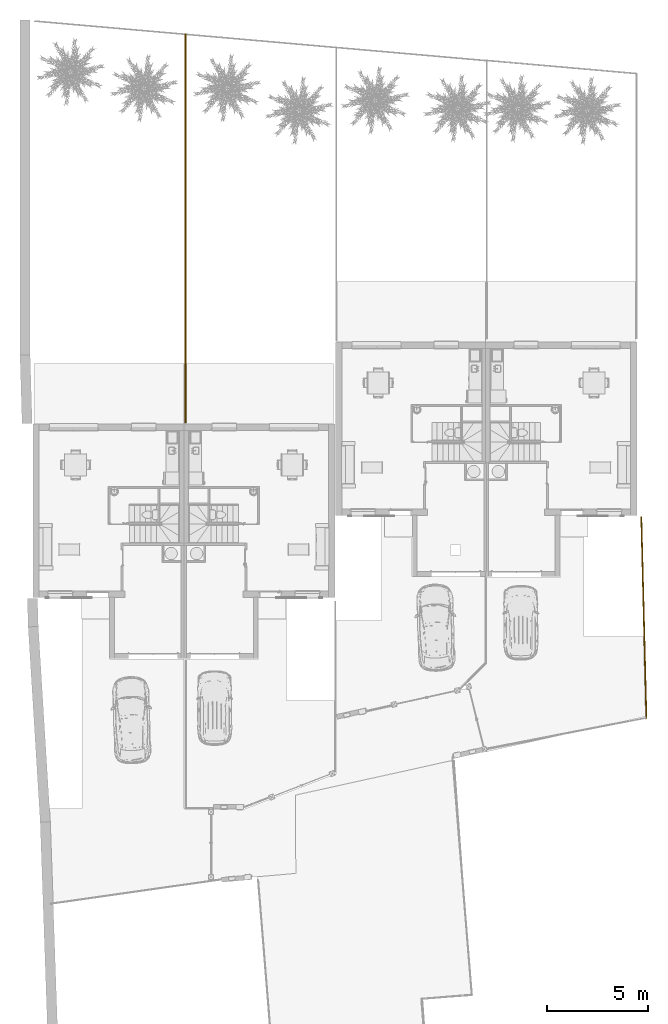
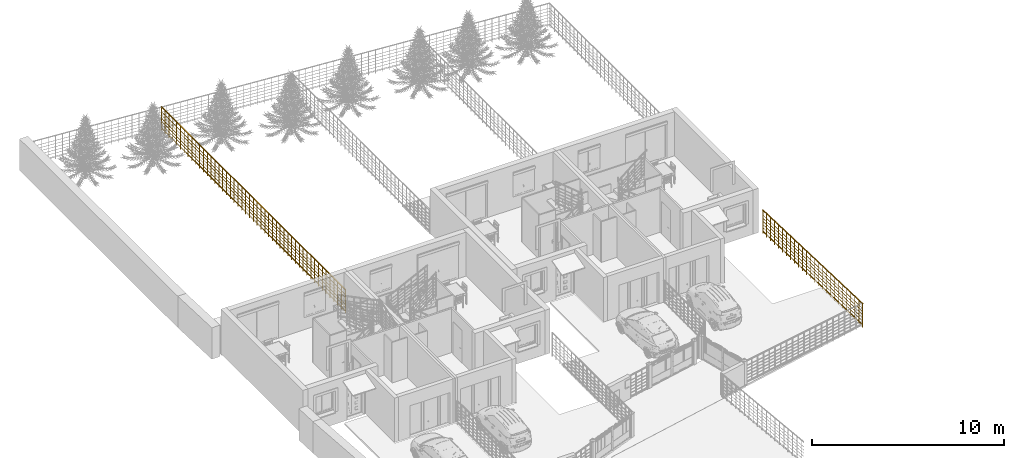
# One storey, part 27 of 33: 2 railings.
"""IFC2X3 building model written with IfcOpenShell, lengths in metres."""

from ifc_helpers import new_model, entity, si_unit, converted_unit, derived_unit, direction, frame, frame_2d, origin, origin_2d_with_axis, place, context, subcontext, project, spatial, polyline, rectangle, circle, outline, extrude, material, material_list, element, save


model = new_model("IFC2X3")

# Units and contexts
model_context = context("Model", 3, precision=1e-05, world=origin(), true_north=direction((6.12303176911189e-17, 1.0)))
context_of_model = context(None, 3, precision=1e-05, world=origin(), true_north=direction((6.12303176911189e-17, 1.0)))
body_context = subcontext(model_context, "Body", "Model", "MODEL_VIEW")
ifc_project = project(units=[si_unit("LENGTHUNIT", "METRE"), si_unit("AREAUNIT", "SQUARE_METRE"), si_unit("VOLUMEUNIT", "CUBIC_METRE"), converted_unit("PLANEANGLEUNIT", "DEGREE", entity("IfcRatioMeasure", 0.0174532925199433), si_unit("PLANEANGLEUNIT", "RADIAN"), dimensions=[0, 0, 0, 0, 0, 0, 0]), si_unit("MASSUNIT", "GRAM", prefix="KILO"), si_unit("TIMEUNIT", "SECOND"), si_unit("FREQUENCYUNIT", "HERTZ"), si_unit("THERMODYNAMICTEMPERATUREUNIT", "DEGREE_CELSIUS"), derived_unit("THERMALTRANSMITTANCEUNIT", [(si_unit("MASSUNIT", "GRAM", prefix="KILO"), 1), (si_unit("THERMODYNAMICTEMPERATUREUNIT", "KELVIN"), -1), (si_unit("TIMEUNIT", "SECOND"), -3)]), derived_unit("VOLUMETRICFLOWRATEUNIT", [(si_unit("LENGTHUNIT", "METRE"), 3), (si_unit("TIMEUNIT", "SECOND"), -1)]), si_unit("ELECTRICCURRENTUNIT", "AMPERE"), si_unit("ELECTRICVOLTAGEUNIT", "VOLT"), si_unit("POWERUNIT", "WATT"), si_unit("FORCEUNIT", "NEWTON", prefix="KILO"), si_unit("ILLUMINANCEUNIT", "LUX"), si_unit("LUMINOUSFLUXUNIT", "LUMEN"), si_unit("LUMINOUSINTENSITYUNIT", "CANDELA"), si_unit("PRESSUREUNIT", "PASCAL")], contexts=[model_context, context_of_model])

# Site, building, storey
site_placement = place(None, origin())
site = spatial("IfcSite", under=ifc_project, at=site_placement, Name="Surface", CompositionType="ELEMENT")
building_placement = place(site_placement, origin())
building = spatial("IfcBuilding", under=site, at=building_placement, CompositionType="ELEMENT")
storey_placement = place(building_placement, origin())
storey = spatial("IfcBuildingStorey", under=building, at=storey_placement, Name="Plan des fondations  Maisons 1 et 2", CompositionType="ELEMENT", Elevation=0.0)

# Railings
ifc_material_1 = material(Name="Bois")
ifc_material_2 = material(Name="Finition Peinture Grise")
ifc_material_list_1 = material_list([ifc_material_1, ifc_material_2])
railing_1_placement = place(building_placement, origin())
element("IfcRailing", 1, at=railing_1_placement, inside=storey, material=ifc_material_list_1, Name="Garde-corps:Type Bateau 1,50 m", ObjectType="Garde-corps:Type Bateau 1,50 m", PredefinedType="NOTDEFINED", context=body_context, shape_type="SweptSolid", body=[
    extrude(rectangle(XDim=0.0499999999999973, YDim=0.0139999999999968, at=frame_2d((4.32986979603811e-15, -1.73259843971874e-14), x_axis=(1.0, 0.0))), frame((68.9122847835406, 107.277798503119, -0.1), z_axis=(0.0, 0.0, 1.0), x_axis=(-1.0, 0.0, 0.0)), (0.0, 0.0, 1.0), 1.46984653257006),
    extrude(rectangle(XDim=0.0499999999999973, YDim=0.0139999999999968, at=frame_2d((4.32986979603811e-15, 0.0), x_axis=(1.0, 0.0))), frame((68.9122847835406, 106.877798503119, -0.1), z_axis=(0.0, 0.0, 1.0), x_axis=(-1.0, 0.0, 0.0)), (0.0, 0.0, 1.0), 1.46984653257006),
    extrude(rectangle(XDim=0.0499999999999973, YDim=0.0139999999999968, at=frame_2d((4.32986979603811e-15, 0.0), x_axis=(1.0, 0.0))), frame((68.9122847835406, 106.477798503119, -0.1), z_axis=(0.0, 0.0, 1.0), x_axis=(-1.0, 0.0, 0.0)), (0.0, 0.0, 1.0), 1.46984653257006),
    extrude(rectangle(XDim=0.0499999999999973, YDim=0.0139999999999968, at=frame_2d((4.32986979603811e-15, -1.73259843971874e-14), x_axis=(1.0, 0.0))), frame((68.9122847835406, 106.077798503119, -0.1), z_axis=(0.0, 0.0, 1.0), x_axis=(-1.0, 0.0, 0.0)), (0.0, 0.0, 1.0), 1.46984653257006),
    extrude(rectangle(XDim=0.0499999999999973, YDim=0.0139999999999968, at=frame_2d((4.32986979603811e-15, 0.0), x_axis=(1.0, 0.0))), frame((68.9122847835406, 105.677798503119, -0.1), z_axis=(0.0, 0.0, 1.0), x_axis=(-1.0, 0.0, 0.0)), (0.0, 0.0, 1.0), 1.46984653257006),
    extrude(rectangle(XDim=0.0499999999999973, YDim=0.0139999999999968, at=frame_2d((4.32986979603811e-15, 0.0), x_axis=(1.0, 0.0))), frame((68.9122847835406, 105.277798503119, -0.1), z_axis=(0.0, 0.0, 1.0), x_axis=(-1.0, 0.0, 0.0)), (0.0, 0.0, 1.0), 1.46984653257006),
    extrude(rectangle(XDim=0.0499999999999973, YDim=0.0139999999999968, at=frame_2d((-4.32986979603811e-15, -1.73259843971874e-14), x_axis=(1.0, 0.0))), frame((68.9122847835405, 104.877798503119, -0.1), z_axis=(0.0, 0.0, 1.0), x_axis=(-1.0, 0.0, 0.0)), (0.0, 0.0, 1.0), 1.46984653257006),
    extrude(rectangle(XDim=0.0499999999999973, YDim=0.0139999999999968, at=frame_2d((-4.32986979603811e-15, 0.0), x_axis=(1.0, 0.0))), frame((68.9122847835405, 104.477798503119, -0.1), z_axis=(0.0, 0.0, 1.0), x_axis=(-1.0, 0.0, 0.0)), (0.0, 0.0, 1.0), 1.46984653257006),
    extrude(rectangle(XDim=0.0499999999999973, YDim=0.0139999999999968, at=frame_2d((-4.32986979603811e-15, 0.0), x_axis=(1.0, 0.0))), frame((68.9122847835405, 104.077798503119, -0.1), z_axis=(0.0, 0.0, 1.0), x_axis=(-1.0, 0.0, 0.0)), (0.0, 0.0, 1.0), 1.46984653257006),
    extrude(rectangle(XDim=0.0499999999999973, YDim=0.0139999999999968, at=frame_2d((-4.32986979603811e-15, 0.0), x_axis=(1.0, 0.0))), frame((68.9122847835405, 103.677798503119, -0.1), z_axis=(0.0, 0.0, 1.0), x_axis=(-1.0, 0.0, 0.0)), (0.0, 0.0, 1.0), 1.46984653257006),
    extrude(rectangle(XDim=0.0499999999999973, YDim=0.0139999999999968, at=frame_2d((-4.32986979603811e-15, 0.0), x_axis=(1.0, 0.0))), frame((68.9122847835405, 103.277798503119, -0.1), z_axis=(0.0, 0.0, 1.0), x_axis=(-1.0, 0.0, 0.0)), (0.0, 0.0, 1.0), 1.46984653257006),
    extrude(rectangle(XDim=0.0499999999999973, YDim=0.0139999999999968, at=frame_2d((-4.32986979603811e-15, 0.0), x_axis=(1.0, 0.0))), frame((68.9122847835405, 102.877798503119, -0.1), z_axis=(0.0, 0.0, 1.0), x_axis=(-1.0, 0.0, 0.0)), (0.0, 0.0, 1.0), 1.46984653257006),
    extrude(rectangle(XDim=0.0499999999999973, YDim=0.0139999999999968, at=frame_2d((-4.32986979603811e-15, 0.0), x_axis=(1.0, 0.0))), frame((68.9122847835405, 102.477798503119, -0.1), z_axis=(0.0, 0.0, 1.0), x_axis=(-1.0, 0.0, 0.0)), (0.0, 0.0, 1.0), 1.46984653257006),
    extrude(rectangle(XDim=0.0499999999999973, YDim=0.0139999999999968, at=frame_2d((-4.32986979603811e-15, 0.0), x_axis=(1.0, 0.0))), frame((68.9122847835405, 102.077798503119, -0.1), z_axis=(0.0, 0.0, 1.0), x_axis=(-1.0, 0.0, 0.0)), (0.0, 0.0, 1.0), 1.46984653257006),
    extrude(rectangle(XDim=0.0499999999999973, YDim=0.0139999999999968, at=frame_2d((-4.32986979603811e-15, 0.0), x_axis=(1.0, 0.0))), frame((68.9122847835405, 101.677798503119, -0.1), z_axis=(0.0, 0.0, 1.0), x_axis=(-1.0, 0.0, 0.0)), (0.0, 0.0, 1.0), 1.46984653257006),
    extrude(rectangle(XDim=0.0499999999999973, YDim=0.0139999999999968, at=frame_2d((-4.32986979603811e-15, 0.0), x_axis=(1.0, 0.0))), frame((68.9122847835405, 101.277798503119, -0.1), z_axis=(0.0, 0.0, 1.0), x_axis=(-1.0, 0.0, 0.0)), (0.0, 0.0, 1.0), 1.46984653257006),
    extrude(rectangle(XDim=0.0499999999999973, YDim=0.0139999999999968, at=frame_2d((-4.32986979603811e-15, 0.0), x_axis=(1.0, 0.0))), frame((68.9122847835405, 100.877798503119, -0.1), z_axis=(0.0, 0.0, 1.0), x_axis=(-1.0, 0.0, 0.0)), (0.0, 0.0, 1.0), 1.46984653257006),
    extrude(rectangle(XDim=0.0499999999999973, YDim=0.0139999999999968, at=frame_2d((-4.32986979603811e-15, 0.0), x_axis=(1.0, 0.0))), frame((68.9122847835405, 100.477798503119, -0.1), z_axis=(0.0, 0.0, 1.0), x_axis=(-1.0, 0.0, 0.0)), (0.0, 0.0, 1.0), 1.46984653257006),
    extrude(rectangle(XDim=0.0499999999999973, YDim=0.0139999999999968, at=frame_2d((-4.32986979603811e-15, 0.0), x_axis=(1.0, 0.0))), frame((68.9122847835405, 100.077798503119, -0.1), z_axis=(0.0, 0.0, 1.0), x_axis=(-1.0, 0.0, 0.0)), (0.0, 0.0, 1.0), 1.46984653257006),
    extrude(rectangle(XDim=0.0499999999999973, YDim=0.0139999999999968, at=frame_2d((4.32986979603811e-15, 0.0), x_axis=(1.0, 0.0))), frame((68.9122847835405, 99.6777985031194, -0.1), z_axis=(0.0, 0.0, 1.0), x_axis=(-1.0, 0.0, 0.0)), (0.0, 0.0, 1.0), 1.46984653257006),
    extrude(rectangle(XDim=0.0499999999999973, YDim=0.0139999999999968, at=frame_2d((4.32986979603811e-15, 0.0), x_axis=(1.0, 0.0))), frame((68.9122847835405, 99.2777985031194, -0.1), z_axis=(0.0, 0.0, 1.0), x_axis=(-1.0, 0.0, 0.0)), (0.0, 0.0, 1.0), 1.46984653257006),
    extrude(rectangle(XDim=0.0499999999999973, YDim=0.0139999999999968, at=frame_2d((4.32986979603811e-15, 0.0), x_axis=(1.0, 0.0))), frame((68.9122847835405, 98.8777985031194, -0.1), z_axis=(0.0, 0.0, 1.0), x_axis=(-1.0, 0.0, 0.0)), (0.0, 0.0, 1.0), 1.46984653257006),
    extrude(rectangle(XDim=0.0499999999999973, YDim=0.0139999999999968, at=frame_2d((4.32986979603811e-15, 0.0), x_axis=(1.0, 0.0))), frame((68.9122847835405, 98.4777985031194, -0.1), z_axis=(0.0, 0.0, 1.0), x_axis=(-1.0, 0.0, 0.0)), (0.0, 0.0, 1.0), 1.46984653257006),
    extrude(rectangle(XDim=0.0499999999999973, YDim=0.0139999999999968, at=frame_2d((4.32986979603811e-15, 0.0), x_axis=(1.0, 0.0))), frame((68.9122847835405, 98.0777985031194, -0.1), z_axis=(0.0, 0.0, 1.0), x_axis=(-1.0, 0.0, 0.0)), (0.0, 0.0, 1.0), 1.46984653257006),
    extrude(rectangle(XDim=0.0499999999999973, YDim=0.0139999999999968, at=frame_2d((4.32986979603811e-15, 0.0), x_axis=(1.0, 0.0))), frame((68.9122847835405, 97.6777985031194, -0.1), z_axis=(0.0, 0.0, 1.0), x_axis=(-1.0, 0.0, 0.0)), (0.0, 0.0, 1.0), 1.46984653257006),
    extrude(rectangle(XDim=0.0499999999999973, YDim=0.0139999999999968, at=frame_2d((4.32986979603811e-15, 0.0), x_axis=(1.0, 0.0))), frame((68.9122847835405, 97.2777985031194, -0.1), z_axis=(0.0, 0.0, 1.0), x_axis=(-1.0, 0.0, 0.0)), (0.0, 0.0, 1.0), 1.46984653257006),
    extrude(rectangle(XDim=0.0499999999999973, YDim=0.0139999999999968, at=frame_2d((4.32986979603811e-15, 0.0), x_axis=(1.0, 0.0))), frame((68.9122847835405, 96.8777985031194, -0.1), z_axis=(0.0, 0.0, 1.0), x_axis=(-1.0, 0.0, 0.0)), (0.0, 0.0, 1.0), 1.46984653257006),
    extrude(rectangle(XDim=0.0499999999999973, YDim=0.0139999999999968, at=frame_2d((4.32986979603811e-15, 0.0), x_axis=(1.0, 0.0))), frame((68.9122847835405, 96.4777985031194, -0.1), z_axis=(0.0, 0.0, 1.0), x_axis=(-1.0, 0.0, 0.0)), (0.0, 0.0, 1.0), 1.46984653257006),
    extrude(rectangle(XDim=0.0499999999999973, YDim=0.0139999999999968, at=frame_2d((4.32986979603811e-15, 0.0), x_axis=(1.0, 0.0))), frame((68.9122847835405, 96.0777985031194, -0.1), z_axis=(0.0, 0.0, 1.0), x_axis=(-1.0, 0.0, 0.0)), (0.0, 0.0, 1.0), 1.46984653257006),
    extrude(rectangle(XDim=0.0499999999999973, YDim=0.0139999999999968, at=frame_2d((4.32986979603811e-15, 0.0), x_axis=(1.0, 0.0))), frame((68.9122847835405, 95.6777985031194, -0.1), z_axis=(0.0, 0.0, 1.0), x_axis=(-1.0, 0.0, 0.0)), (0.0, 0.0, 1.0), 1.46984653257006),
    extrude(rectangle(XDim=0.0499999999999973, YDim=0.0139999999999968, at=frame_2d((4.32986979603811e-15, 0.0), x_axis=(1.0, 0.0))), frame((68.9122847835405, 95.2777985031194, -0.1), z_axis=(0.0, 0.0, 1.0), x_axis=(-1.0, 0.0, 0.0)), (0.0, 0.0, 1.0), 1.46984653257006),
    extrude(rectangle(XDim=0.0499999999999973, YDim=0.0139999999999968, at=frame_2d((4.32986979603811e-15, 0.0), x_axis=(1.0, 0.0))), frame((68.9122847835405, 94.8777985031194, -0.1), z_axis=(0.0, 0.0, 1.0), x_axis=(-1.0, 0.0, 0.0)), (0.0, 0.0, 1.0), 1.46984653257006),
    extrude(rectangle(XDim=0.0499999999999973, YDim=0.0139999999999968, at=frame_2d((4.32986979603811e-15, 0.0), x_axis=(1.0, 0.0))), frame((68.9122847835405, 94.4777985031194, -0.1), z_axis=(0.0, 0.0, 1.0), x_axis=(-1.0, 0.0, 0.0)), (0.0, 0.0, 1.0), 1.46984653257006),
    extrude(rectangle(XDim=0.0499999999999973, YDim=0.0139999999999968, at=frame_2d((4.32986979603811e-15, 0.0), x_axis=(1.0, 0.0))), frame((68.9122847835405, 94.0777985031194, -0.1), z_axis=(0.0, 0.0, 1.0), x_axis=(-1.0, 0.0, 0.0)), (0.0, 0.0, 1.0), 1.46984653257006),
    extrude(rectangle(XDim=0.0499999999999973, YDim=0.0139999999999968, at=frame_2d((4.32986979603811e-15, 0.0), x_axis=(1.0, 0.0))), frame((68.9122847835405, 93.6777985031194, -0.1), z_axis=(0.0, 0.0, 1.0), x_axis=(-1.0, 0.0, 0.0)), (0.0, 0.0, 1.0), 1.46984653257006),
    extrude(rectangle(XDim=0.0499999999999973, YDim=0.0139999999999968, at=frame_2d((4.32986979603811e-15, 0.0), x_axis=(1.0, 0.0))), frame((68.9122847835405, 93.2777985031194, -0.1), z_axis=(0.0, 0.0, 1.0), x_axis=(-1.0, 0.0, 0.0)), (0.0, 0.0, 1.0), 1.46984653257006),
    extrude(rectangle(XDim=0.0499999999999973, YDim=0.0139999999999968, at=frame_2d((4.32986979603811e-15, 0.0), x_axis=(1.0, 0.0))), frame((68.9122847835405, 92.8777985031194, -0.1), z_axis=(0.0, 0.0, 1.0), x_axis=(-1.0, 0.0, 0.0)), (0.0, 0.0, 1.0), 1.46984653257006),
    extrude(rectangle(XDim=0.0499999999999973, YDim=0.0139999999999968, at=frame_2d((4.32986979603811e-15, 0.0), x_axis=(1.0, 0.0))), frame((68.9122847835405, 92.4777985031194, -0.1), z_axis=(0.0, 0.0, 1.0), x_axis=(-1.0, 0.0, 0.0)), (0.0, 0.0, 1.0), 1.46984653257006),
    extrude(rectangle(XDim=0.0499999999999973, YDim=0.0139999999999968, at=frame_2d((4.32986979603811e-15, 0.0), x_axis=(1.0, 0.0))), frame((68.9122847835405, 92.0777985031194, -0.1), z_axis=(0.0, 0.0, 1.0), x_axis=(-1.0, 0.0, 0.0)), (0.0, 0.0, 1.0), 1.46984653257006),
    extrude(rectangle(XDim=0.0499999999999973, YDim=0.0139999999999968, at=frame_2d((4.32986979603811e-15, 0.0), x_axis=(1.0, 0.0))), frame((68.9122847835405, 91.6777985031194, -0.1), z_axis=(0.0, 0.0, 1.0), x_axis=(-1.0, 0.0, 0.0)), (0.0, 0.0, 1.0), 1.46984653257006),
    extrude(rectangle(XDim=0.0499999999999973, YDim=0.0139999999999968, at=frame_2d((4.32986979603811e-15, 0.0), x_axis=(1.0, 0.0))), frame((68.9122847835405, 91.2777985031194, -0.1), z_axis=(0.0, 0.0, 1.0), x_axis=(-1.0, 0.0, 0.0)), (0.0, 0.0, 1.0), 1.46984653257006),
    extrude(rectangle(XDim=0.0499999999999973, YDim=0.0139999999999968, at=frame_2d((4.32986979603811e-15, 0.0), x_axis=(1.0, 0.0))), frame((68.9122847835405, 90.8777985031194, -0.1), z_axis=(0.0, 0.0, 1.0), x_axis=(-1.0, 0.0, 0.0)), (0.0, 0.0, 1.0), 1.46984653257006),
    extrude(rectangle(XDim=0.0499999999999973, YDim=0.0139999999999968, at=frame_2d((4.32986979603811e-15, 0.0), x_axis=(1.0, 0.0))), frame((68.9122847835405, 90.4777985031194, -0.1), z_axis=(0.0, 0.0, 1.0), x_axis=(-1.0, 0.0, 0.0)), (0.0, 0.0, 1.0), 1.46984653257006),
    extrude(rectangle(XDim=0.0499999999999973, YDim=0.0139999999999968, at=frame_2d((4.32986979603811e-15, 0.0), x_axis=(1.0, 0.0))), frame((68.9122847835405, 90.0777985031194, -0.1), z_axis=(0.0, 0.0, 1.0), x_axis=(-1.0, 0.0, 0.0)), (0.0, 0.0, 1.0), 1.46984653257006),
    extrude(rectangle(XDim=0.0499999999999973, YDim=0.0139999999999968, at=frame_2d((4.32986979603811e-15, 0.0), x_axis=(1.0, 0.0))), frame((68.9122847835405, 89.6777985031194, -0.1), z_axis=(0.0, 0.0, 1.0), x_axis=(-1.0, 0.0, 0.0)), (0.0, 0.0, 1.0), 1.46984653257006),
    extrude(rectangle(XDim=0.0499999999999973, YDim=0.0139999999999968, at=frame_2d((4.32986979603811e-15, 0.0), x_axis=(1.0, 0.0))), frame((68.9122847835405, 89.2777985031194, -0.1), z_axis=(0.0, 0.0, 1.0), x_axis=(-1.0, 0.0, 0.0)), (0.0, 0.0, 1.0), 1.46984653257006),
    extrude(rectangle(XDim=0.0499999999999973, YDim=0.0139999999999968, at=frame_2d((4.32986979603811e-15, 0.0), x_axis=(1.0, 0.0))), frame((68.9122847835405, 88.8777985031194, -0.1), z_axis=(0.0, 0.0, 1.0), x_axis=(-1.0, 0.0, 0.0)), (0.0, 0.0, 1.0), 1.46984653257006),
    extrude(rectangle(XDim=0.0499999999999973, YDim=0.0139999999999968, at=frame_2d((4.32986979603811e-15, 0.0), x_axis=(1.0, 0.0))), frame((68.9122847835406, 107.667798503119, -0.1), z_axis=(0.0, 0.0, 1.0), x_axis=(-1.0, 0.0, 0.0)), (0.0, 0.0, 1.0), 1.46984653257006),
    extrude(rectangle(XDim=0.0499999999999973, YDim=0.0139999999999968, at=frame_2d((4.32986979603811e-15, 0.0), x_axis=(1.0, 0.0))), frame((68.9122847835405, 88.4877985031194, -0.1), z_axis=(0.0, 0.0, 1.0), x_axis=(-1.0, 0.0, 0.0)), (0.0, 0.0, 1.0), 1.46984653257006),
    extrude(outline(polyline([(-0.0109067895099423, -0.0384843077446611), (0.00177588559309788, -0.0384843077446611), (0.0141514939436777, -0.0318300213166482), (0.0240801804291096, -0.0196720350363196), (0.029845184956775, -0.00411257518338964), (0.0304496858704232, 0.01215798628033), (0.0257891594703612, 0.0263263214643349), (0.016669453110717, 0.0359425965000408), (0.010906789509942, 0.0384843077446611), (-0.0017758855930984, 0.0384843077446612), (-0.0141514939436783, 0.0318300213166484), (-0.0240801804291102, 0.0196720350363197), (-0.0298451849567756, 0.00411257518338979), (-0.0304496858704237, -0.0121579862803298), (-0.0257891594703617, -0.0263263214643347), (-0.0166694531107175, -0.0359425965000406), (-0.0109067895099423, -0.0384843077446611)])), frame((68.9117857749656, 88.4766194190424, 1.4), z_axis=(0.0, 1.0, 0.0), x_axis=(0.27266973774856, 0.0, 0.962107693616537)), (0.0, 0.0, 1.0), 19.2),
    extrude(circle(Radius=0.015, at=origin_2d_with_axis()), frame((68.9117857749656, 88.4766194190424, 0.025), z_axis=(0.0, 1.0, 0.0), x_axis=(1.0, 0.0, 0.0)), (0.0, 0.0, 1.0), 19.2),
    extrude(circle(Radius=0.015, at=origin_2d_with_axis()), frame((68.9117857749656, 88.4766194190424, 1.085), z_axis=(0.0, 1.0, 0.0), x_axis=(1.0, 0.0, 0.0)), (0.0, 0.0, 1.0), 19.2),
    extrude(circle(Radius=0.015, at=origin_2d_with_axis()), frame((68.9117857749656, 88.4766194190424, 0.885), z_axis=(0.0, 1.0, 0.0), x_axis=(1.0, 0.0, 0.0)), (0.0, 0.0, 1.0), 19.2),
    extrude(circle(Radius=0.015, at=origin_2d_with_axis()), frame((68.9117857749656, 88.4766194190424, 0.685), z_axis=(0.0, 1.0, 0.0), x_axis=(1.0, 0.0, 0.0)), (0.0, 0.0, 1.0), 19.2),
    extrude(circle(Radius=0.015, at=origin_2d_with_axis()), frame((68.9117857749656, 88.4766194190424, 0.485), z_axis=(0.0, 1.0, 0.0), x_axis=(1.0, 0.0, 0.0)), (0.0, 0.0, 1.0), 19.2),
    extrude(circle(Radius=0.015, at=origin_2d_with_axis()), frame((68.9117857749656, 88.4766194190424, 0.285), z_axis=(0.0, 1.0, 0.0), x_axis=(1.0, 0.0, 0.0)), (0.0, 0.0, 1.0), 19.2),
    extrude(circle(Radius=0.015, at=origin_2d_with_axis()), frame((68.9117857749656, 88.4766194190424, 0.085), z_axis=(0.0, 1.0, 0.0), x_axis=(1.0, 0.0, 0.0)), (0.0, 0.0, 1.0), 19.2),
])
ifc_material_list_2 = material_list([ifc_material_1, ifc_material_2])
railing_2_placement = place(building_placement, origin())
element("IfcRailing", 2, at=railing_2_placement, inside=storey, material=ifc_material_list_2, Name="Garde-corps:Type Bateau 1,50 m", ObjectType="Garde-corps:Type Bateau 1,50 m", PredefinedType="NOTDEFINED", context=body_context, shape_type="SweptSolid", body=[
    extrude(rectangle(XDim=0.0500000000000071, YDim=0.0139999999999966, at=origin_2d_with_axis()), frame((91.6194130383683, 74.2817731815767, -0.1), z_axis=(0.0, 0.0, 1.0), x_axis=(0.99967963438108, 0.0253106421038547, 0.0)), (0.0, 0.0, 1.0), 1.46984653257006),
    extrude(rectangle(XDim=0.0500000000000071, YDim=0.0139999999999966, at=origin_2d_with_axis()), frame((91.6092887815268, 74.6816450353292, -0.1), z_axis=(0.0, 0.0, 1.0), x_axis=(0.99967963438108, 0.0253106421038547, 0.0)), (0.0, 0.0, 1.0), 1.46984653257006),
    extrude(rectangle(XDim=0.0500000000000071, YDim=0.0139999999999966, at=frame_2d((2.18575157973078e-16, 8.66017327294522e-15), x_axis=(1.0, 0.0))), frame((91.5991645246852, 75.0815168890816, -0.1), z_axis=(0.0, 0.0, 1.0), x_axis=(0.99967963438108, 0.0253106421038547, 0.0)), (0.0, 0.0, 1.0), 1.46984653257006),
    extrude(rectangle(XDim=0.0500000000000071, YDim=0.0139999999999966, at=origin_2d_with_axis()), frame((91.5890402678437, 75.481388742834, -0.1), z_axis=(0.0, 0.0, 1.0), x_axis=(0.99967963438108, 0.0253106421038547, 0.0)), (0.0, 0.0, 1.0), 1.46984653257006),
    extrude(rectangle(XDim=0.0500000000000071, YDim=0.0139999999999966, at=origin_2d_with_axis()), frame((91.5789160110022, 75.8812605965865, -0.1), z_axis=(0.0, 0.0, 1.0), x_axis=(0.99967963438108, 0.0253106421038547, 0.0)), (0.0, 0.0, 1.0), 1.46984653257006),
    extrude(rectangle(XDim=0.0500000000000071, YDim=0.0139999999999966, at=origin_2d_with_axis()), frame((91.5687917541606, 76.2811324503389, -0.1), z_axis=(0.0, 0.0, 1.0), x_axis=(0.99967963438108, 0.0253106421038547, 0.0)), (0.0, 0.0, 1.0), 1.46984653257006),
    extrude(rectangle(XDim=0.0500000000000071, YDim=0.0139999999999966, at=origin_2d_with_axis()), frame((91.5586674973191, 76.6810043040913, -0.1), z_axis=(0.0, 0.0, 1.0), x_axis=(0.99967963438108, 0.0253106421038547, 0.0)), (0.0, 0.0, 1.0), 1.46984653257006),
    extrude(rectangle(XDim=0.0500000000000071, YDim=0.0139999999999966, at=origin_2d_with_axis()), frame((91.5485432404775, 77.0808761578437, -0.1), z_axis=(0.0, 0.0, 1.0), x_axis=(0.99967963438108, 0.0253106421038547, 0.0)), (0.0, 0.0, 1.0), 1.46984653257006),
    extrude(rectangle(XDim=0.0500000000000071, YDim=0.0139999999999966, at=origin_2d_with_axis()), frame((91.538418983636, 77.4807480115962, -0.1), z_axis=(0.0, 0.0, 1.0), x_axis=(0.99967963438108, 0.0253106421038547, 0.0)), (0.0, 0.0, 1.0), 1.46984653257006),
    extrude(rectangle(XDim=0.0500000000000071, YDim=0.0139999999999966, at=origin_2d_with_axis()), frame((91.5282947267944, 77.8806198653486, -0.1), z_axis=(0.0, 0.0, 1.0), x_axis=(0.99967963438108, 0.0253106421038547, 0.0)), (0.0, 0.0, 1.0), 1.46984653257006),
    extrude(rectangle(XDim=0.0500000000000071, YDim=0.0139999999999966, at=frame_2d((-2.18575157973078e-16, -8.66017327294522e-15), x_axis=(1.0, 0.0))), frame((91.5181704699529, 78.2804917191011, -0.1), z_axis=(0.0, 0.0, 1.0), x_axis=(0.99967963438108, 0.0253106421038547, 0.0)), (0.0, 0.0, 1.0), 1.46984653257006),
    extrude(rectangle(XDim=0.0500000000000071, YDim=0.0139999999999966, at=frame_2d((2.18575157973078e-16, 8.66017327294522e-15), x_axis=(1.0, 0.0))), frame((91.5080462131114, 78.6803635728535, -0.1), z_axis=(0.0, 0.0, 1.0), x_axis=(0.99967963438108, 0.0253106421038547, 0.0)), (0.0, 0.0, 1.0), 1.46984653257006),
    extrude(rectangle(XDim=0.0500000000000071, YDim=0.0139999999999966, at=frame_2d((-2.18575157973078e-16, -8.66017327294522e-15), x_axis=(1.0, 0.0))), frame((91.4979219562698, 79.0802354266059, -0.1), z_axis=(0.0, 0.0, 1.0), x_axis=(0.99967963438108, 0.0253106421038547, 0.0)), (0.0, 0.0, 1.0), 1.46984653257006),
    extrude(rectangle(XDim=0.0500000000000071, YDim=0.0139999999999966, at=frame_2d((-2.18575157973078e-16, -8.66017327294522e-15), x_axis=(1.0, 0.0))), frame((91.4877976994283, 79.4801072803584, -0.1), z_axis=(0.0, 0.0, 1.0), x_axis=(0.99967963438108, 0.0253106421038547, 0.0)), (0.0, 0.0, 1.0), 1.46984653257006),
    extrude(rectangle(XDim=0.0500000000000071, YDim=0.0139999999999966, at=frame_2d((-2.18575157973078e-16, -8.66017327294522e-15), x_axis=(1.0, 0.0))), frame((91.4776734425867, 79.8799791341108, -0.1), z_axis=(0.0, 0.0, 1.0), x_axis=(0.99967963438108, 0.0253106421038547, 0.0)), (0.0, 0.0, 1.0), 1.46984653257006),
    extrude(rectangle(XDim=0.0500000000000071, YDim=0.0139999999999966, at=frame_2d((-2.18575157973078e-16, -8.66017327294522e-15), x_axis=(1.0, 0.0))), frame((91.4675491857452, 80.2798509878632, -0.1), z_axis=(0.0, 0.0, 1.0), x_axis=(0.99967963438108, 0.0253106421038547, 0.0)), (0.0, 0.0, 1.0), 1.46984653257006),
    extrude(rectangle(XDim=0.0500000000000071, YDim=0.0139999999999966, at=frame_2d((2.18575157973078e-16, 8.66017327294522e-15), x_axis=(1.0, 0.0))), frame((91.4574249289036, 80.6797228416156, -0.1), z_axis=(0.0, 0.0, 1.0), x_axis=(0.99967963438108, 0.0253106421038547, 0.0)), (0.0, 0.0, 1.0), 1.46984653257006),
    extrude(rectangle(XDim=0.0500000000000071, YDim=0.0139999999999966, at=frame_2d((-2.18575157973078e-16, -8.66017327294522e-15), x_axis=(1.0, 0.0))), frame((91.4473006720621, 81.0795946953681, -0.1), z_axis=(0.0, 0.0, 1.0), x_axis=(0.99967963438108, 0.0253106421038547, 0.0)), (0.0, 0.0, 1.0), 1.46984653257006),
    extrude(rectangle(XDim=0.0500000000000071, YDim=0.0139999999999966, at=frame_2d((-2.18575157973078e-16, -8.66017327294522e-15), x_axis=(1.0, 0.0))), frame((91.4371764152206, 81.4794665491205, -0.1), z_axis=(0.0, 0.0, 1.0), x_axis=(0.99967963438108, 0.0253106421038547, 0.0)), (0.0, 0.0, 1.0), 1.46984653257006),
    extrude(rectangle(XDim=0.0500000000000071, YDim=0.0139999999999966, at=frame_2d((-2.18575157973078e-16, -8.66017327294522e-15), x_axis=(1.0, 0.0))), frame((91.427052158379, 81.879338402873, -0.1), z_axis=(0.0, 0.0, 1.0), x_axis=(0.99967963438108, 0.0253106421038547, 0.0)), (0.0, 0.0, 1.0), 1.46984653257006),
    extrude(rectangle(XDim=0.0500000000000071, YDim=0.0139999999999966, at=frame_2d((-2.18575157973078e-16, -8.66017327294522e-15), x_axis=(1.0, 0.0))), frame((91.4169279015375, 82.2792102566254, -0.1), z_axis=(0.0, 0.0, 1.0), x_axis=(0.99967963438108, 0.0253106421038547, 0.0)), (0.0, 0.0, 1.0), 1.46984653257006),
    extrude(rectangle(XDim=0.0500000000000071, YDim=0.0139999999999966, at=frame_2d((-2.18575157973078e-16, -8.66017327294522e-15), x_axis=(1.0, 0.0))), frame((91.406803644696, 82.6790821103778, -0.1), z_axis=(0.0, 0.0, 1.0), x_axis=(0.99967963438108, 0.0253106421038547, 0.0)), (0.0, 0.0, 1.0), 1.46984653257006),
    extrude(rectangle(XDim=0.0500000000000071, YDim=0.0139999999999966, at=frame_2d((2.18575157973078e-16, 8.66017327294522e-15), x_axis=(1.0, 0.0))), frame((91.3966793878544, 83.0789539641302, -0.1), z_axis=(0.0, 0.0, 1.0), x_axis=(0.99967963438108, 0.0253106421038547, 0.0)), (0.0, 0.0, 1.0), 1.46984653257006),
    extrude(rectangle(XDim=0.0500000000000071, YDim=0.0139999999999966, at=frame_2d((-2.18575157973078e-16, -8.66017327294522e-15), x_axis=(1.0, 0.0))), frame((91.3865551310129, 83.4788258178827, -0.1), z_axis=(0.0, 0.0, 1.0), x_axis=(0.99967963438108, 0.0253106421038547, 0.0)), (0.0, 0.0, 1.0), 1.46984653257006),
    extrude(rectangle(XDim=0.0500000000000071, YDim=0.0139999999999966, at=origin_2d_with_axis()), frame((91.6292841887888, 73.8918981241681, -0.1), z_axis=(0.0, 0.0, 1.0), x_axis=(0.99967963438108, 0.0253106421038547, 0.0)), (0.0, 0.0, 1.0), 1.46984653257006),
    extrude(rectangle(XDim=0.0500000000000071, YDim=0.0139999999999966, at=frame_2d((-2.18575157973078e-16, -8.66017327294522e-15), x_axis=(1.0, 0.0))), frame((91.3766839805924, 83.8687008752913, -0.1), z_axis=(0.0, 0.0, 1.0), x_axis=(0.99967963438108, 0.0253106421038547, 0.0)), (0.0, 0.0, 1.0), 1.46984653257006),
    extrude(outline(polyline([(-0.0109067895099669, -0.0384843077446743), (0.00177588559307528, -0.0384843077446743), (0.0141514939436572, -0.0318300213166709), (0.0240801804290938, -0.0196720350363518), (0.0298451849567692, -0.0041125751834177), (0.0304496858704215, 0.0121579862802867), (0.0257891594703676, 0.0263263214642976), (0.0166694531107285, 0.0359425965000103), (0.010906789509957, 0.0384843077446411), (-0.00177588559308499, 0.038484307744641), (-0.0141514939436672, 0.0318300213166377), (-0.0240801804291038, 0.0196720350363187), (-0.0298451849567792, 0.00411257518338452), (-0.0304496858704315, -0.0121579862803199), (-0.0257891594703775, -0.0263263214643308), (-0.0166694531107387, -0.0359425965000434), (-0.0109067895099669, -0.0384843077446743)])), frame((91.6300063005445, 73.8830926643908, 1.4), z_axis=(-0.0253106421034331, 0.999679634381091, 0.0), x_axis=(-0.272582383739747, -0.00690144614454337, -0.962107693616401)), (0.0, 0.0, 1.0), 9.99999999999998),
    extrude(circle(Radius=0.015, at=origin_2d_with_axis()), frame((91.6300063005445, 73.8830926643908, 0.025), z_axis=(-0.0253106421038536, 0.99967963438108, 0.0), x_axis=(-0.99967963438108, -0.0253106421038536, 0.0)), (0.0, 0.0, 1.0), 9.99999999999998),
    extrude(circle(Radius=0.015, at=origin_2d_with_axis()), frame((91.6300063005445, 73.8830926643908, 1.085), z_axis=(-0.0253106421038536, 0.99967963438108, 0.0), x_axis=(-0.99967963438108, -0.0253106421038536, 0.0)), (0.0, 0.0, 1.0), 9.99999999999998),
    extrude(circle(Radius=0.015, at=origin_2d_with_axis()), frame((91.6300063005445, 73.8830926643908, 0.885), z_axis=(-0.0253106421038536, 0.99967963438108, 0.0), x_axis=(-0.99967963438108, -0.0253106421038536, 0.0)), (0.0, 0.0, 1.0), 9.99999999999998),
    extrude(circle(Radius=0.015, at=origin_2d_with_axis()), frame((91.6300063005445, 73.8830926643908, 0.685), z_axis=(-0.0253106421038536, 0.99967963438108, 0.0), x_axis=(-0.99967963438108, -0.0253106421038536, 0.0)), (0.0, 0.0, 1.0), 9.99999999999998),
    extrude(circle(Radius=0.015, at=origin_2d_with_axis()), frame((91.6300063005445, 73.8830926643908, 0.485), z_axis=(-0.0253106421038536, 0.99967963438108, 0.0), x_axis=(-0.99967963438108, -0.0253106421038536, 0.0)), (0.0, 0.0, 1.0), 9.99999999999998),
    extrude(circle(Radius=0.015, at=origin_2d_with_axis()), frame((91.6300063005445, 73.8830926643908, 0.285), z_axis=(-0.0253106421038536, 0.99967963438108, 0.0), x_axis=(-0.99967963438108, -0.0253106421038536, 0.0)), (0.0, 0.0, 1.0), 9.99999999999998),
    extrude(circle(Radius=0.015, at=origin_2d_with_axis()), frame((91.6300063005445, 73.8830926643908, 0.085), z_axis=(-0.0253106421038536, 0.99967963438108, 0.0), x_axis=(-0.99967963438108, -0.0253106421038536, 0.0)), (0.0, 0.0, 1.0), 9.99999999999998),
])

save(model, "model.ifc")
